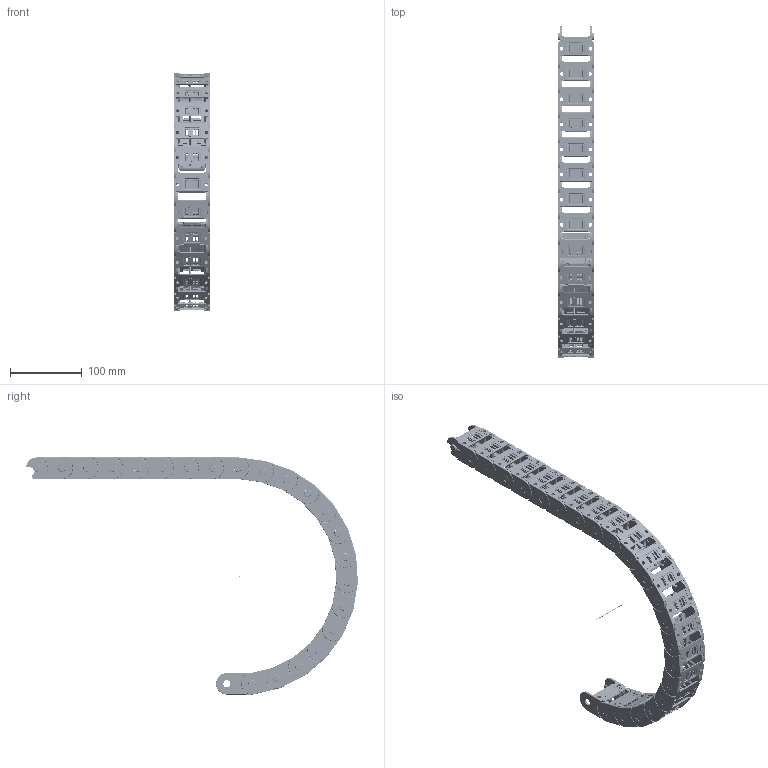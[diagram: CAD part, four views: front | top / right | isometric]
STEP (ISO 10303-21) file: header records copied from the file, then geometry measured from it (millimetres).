
FILE_DESCRIPTION((''),'2;1');
FILE_NAME('\\192.168.0.88\samba\technik\3D\STEP\KOLIBRI\KOLIBRI_30_050_0\KOLIBRI 30_050_0_R150.stp','2013-01-28T11:12:19',('Uebbing'),(''),'Autodesk Inventor 10','Autodesk Inventor 10','');
FILE_SCHEMA(('AUTOMOTIVE_DESIGN { 1 0 10303 214 1 1 1 1 }'));
Length unit declared in the file: millimetre
Products named in the file (6): KOLIBRI 30_050_0_PARAMETRISCH; Achse; Kol_30_050_0_Glied; Kol 30_050_0 Lasche; Kol 30_050_0 Klappsteg; PZ 30 Stecksteg
Assembly tree (26 placements, depth 3):
  KOLIBRI 30_050_0_PARAMETRISCH
    Achse
    Kol_30_050_0_Glied  x22
      Kol 30_050_0 Lasche
      Kol 30_050_0 Klappsteg
      PZ 30 Stecksteg
Bounding box: 50 x 461.72 x 330 mm (x, y, z)
Volume: 342723.4 mm3; surface area: 332086.6 mm2
Topology: 67 solids, 67 shells, 21057 faces, 57534 edges, 37689 vertices
Faces by surface type: plane 10826, bspline 4554, cylinder 4379, torus 990, cone 176, sphere 132
Full cylindrical faces by diameter (mm): 1 x1, 1.166 x22, 2.048 x22, 2.8 x176, 5.1 x44, 10 x44, 10.1 x44
Entity records: 33176 total; most frequent: CARTESIAN_POINT 9704, ORIENTED_EDGE 5150, DIRECTION 4276, EDGE_CURVE 2575, VERTEX_POINT 1701, VECTOR 1612, LINE 1612, AXIS2_PLACEMENT_3D 1332
